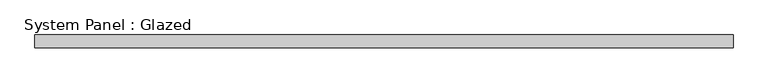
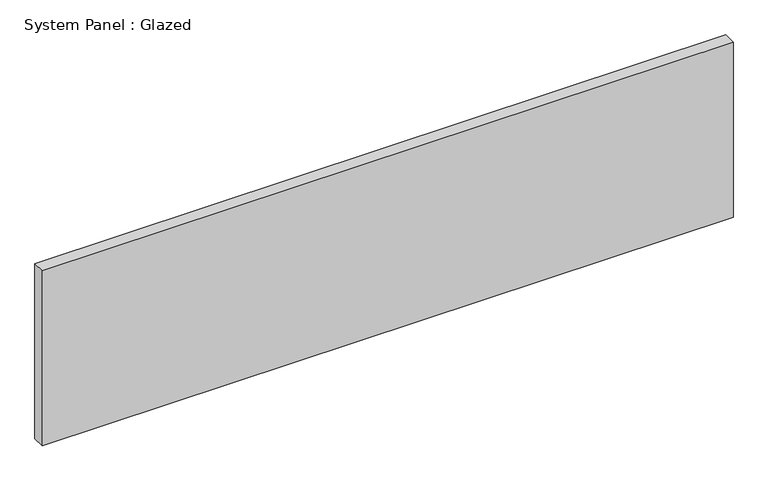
"""IFC4 building model written with IfcOpenShell, lengths in millimetres: plate geometry, System Panel : Glazed."""

from ifc_helpers import new_model, si_unit, origin, origin_with_axes, place, context, project, spatial, polyline, outline, extrude, source, transform, mapped, element, save


def system_panel_glazed_892f2e44(model_context):
    return source(origin(), model_context, "Body", "SweptSolid", [
        extrude(outline(polyline([(687.9166666, 19.05), (-687.9166666, 19.05), (-687.9166666, 44.45), (687.9166666, 44.45), (687.9166666, 19.05)])), origin_with_axes(), (0.0, 0.0, 1.0), 368.3),
    ])


if __name__ == "__main__":
    model = new_model("IFC4")
    model_context = context("Model", 3, world=origin())
    ifc_project = project(units=[si_unit("LENGTHUNIT", "METRE", prefix="MILLI")], contexts=[model_context])
    site = spatial("IfcSite", under=ifc_project)
    building = spatial("IfcBuilding", under=site)
    placement = place(None, origin())
    system_panel_glazed_shape = system_panel_glazed_892f2e44(model_context)
    element("IfcPlate", 1, ObjectType="System Panel : Glazed", at=placement, inside=building, context=model_context, shape_type="MappedRepresentation", body=[
        mapped(system_panel_glazed_shape, transform((0.0, 0.0, 0.0), x_axis=(1.0, 0.0, 0.0), y_axis=(0.0, 1.0, 0.0), z_axis=(0.0, 0.0, 1.0))),
    ])
    save(model, "model.ifc")
